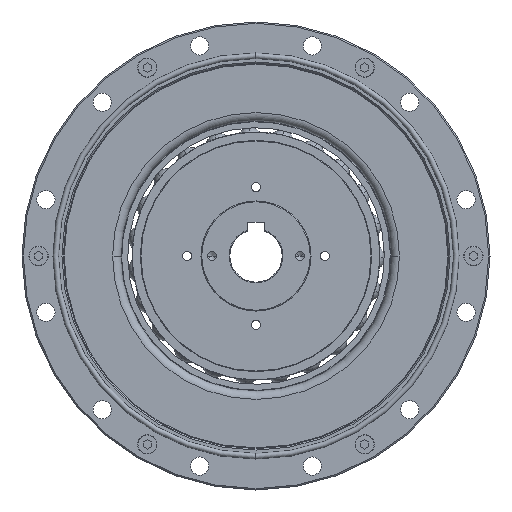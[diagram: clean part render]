
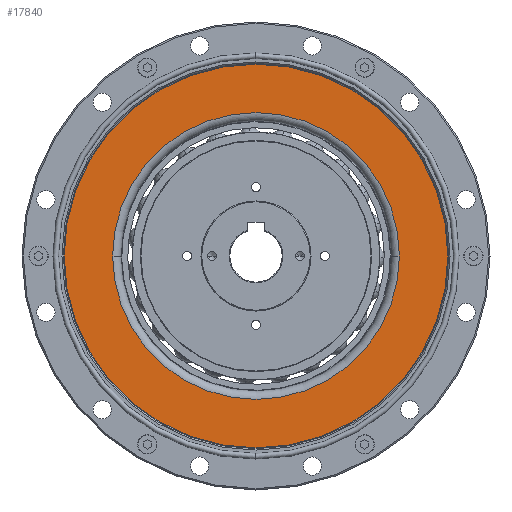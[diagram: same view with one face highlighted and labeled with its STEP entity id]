
A CAD part, left-side view. The second image highlights one B-rep face of the part: STEP entity #17840.
In plain terms, the highlighted planar face has unit normal (-1, 0, 0).
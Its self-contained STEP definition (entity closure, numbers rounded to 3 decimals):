
#370 = AXIS2_PLACEMENT_3D ( 'NONE', #1237, #13844, #3022 ) ;
#618 = CARTESIAN_POINT ( 'NONE',  ( 6.43, 52.085, 0. ) ) ;
#772 = CARTESIAN_POINT ( 'NONE',  ( 6.43, 0., 0. ) ) ;
#843 = CARTESIAN_POINT ( 'NONE',  ( 6.43, 0., 0. ) ) ;
#1237 = CARTESIAN_POINT ( 'NONE',  ( 6.43, 0., 0. ) ) ;
#1729 = EDGE_CURVE ( 'NONE', #16070, #21055, #2122, .T. ) ;
#2122 = CIRCLE ( 'NONE', #23203, 52.085 ) ;
#2385 = CARTESIAN_POINT ( 'NONE',  ( 6.43, 0., 0. ) ) ;
#2580 = DIRECTION ( 'NONE',  ( 0., -1., 0. ) ) ;
#2937 = DIRECTION ( 'NONE',  ( 0., -1., 0. ) ) ;
#2980 = ORIENTED_EDGE ( 'NONE', *, *, #21285, .T. ) ;
#3022 = DIRECTION ( 'NONE',  ( 0., 1., 0. ) ) ;
#4189 = DIRECTION ( 'NONE',  ( 0., 1., 0. ) ) ;
#4737 = EDGE_LOOP ( 'NONE', ( #10290, #2980 ) ) ;
#5698 = DIRECTION ( 'NONE',  ( 0., 1., 0. ) ) ;
#6409 = AXIS2_PLACEMENT_3D ( 'NONE', #2385, #14986, #4189 ) ;
#6784 = CARTESIAN_POINT ( 'NONE',  ( 6.43, -69.7, 0. ) ) ;
#8166 = CARTESIAN_POINT ( 'NONE',  ( 6.43, 69.7, 0. ) ) ;
#9267 = AXIS2_PLACEMENT_3D ( 'NONE', #772, #13398, #2580 ) ;
#9789 = CIRCLE ( 'NONE', #370, 69.7 ) ;
#10290 = ORIENTED_EDGE ( 'NONE', *, *, #22985, .T. ) ;
#11061 = PLANE ( 'NONE',  #18406 ) ;
#12840 = EDGE_LOOP ( 'NONE', ( #13739, #14792 ) ) ;
#12883 = CARTESIAN_POINT ( 'NONE',  ( 6.43, 0., 52.085 ) ) ;
#13184 = CIRCLE ( 'NONE', #9267, 52.085 ) ;
#13398 = DIRECTION ( 'NONE',  ( -1., 0., 0. ) ) ;
#13651 = CIRCLE ( 'NONE', #6409, 69.7 ) ;
#13739 = ORIENTED_EDGE ( 'NONE', *, *, #1729, .F. ) ;
#13844 = DIRECTION ( 'NONE',  ( -1., 0., 0. ) ) ;
#14792 = ORIENTED_EDGE ( 'NONE', *, *, #21118, .F. ) ;
#14986 = DIRECTION ( 'NONE',  ( -1., 0., 0. ) ) ;
#16070 = VERTEX_POINT ( 'NONE', #19263 ) ;
#16497 = DIRECTION ( 'NONE',  ( 1., 0., 0. ) ) ;
#16679 = FACE_BOUND ( 'NONE', #12840, .T. ) ;
#16913 = VERTEX_POINT ( 'NONE', #8166 ) ;
#17840 = ADVANCED_FACE ( 'NONE', ( #20880, #16679 ), #11061, .F. ) ;
#18406 = AXIS2_PLACEMENT_3D ( 'NONE', #12883, #16497, #5698 ) ;
#19263 = CARTESIAN_POINT ( 'NONE',  ( 6.43, -52.085, 0. ) ) ;
#20880 = FACE_OUTER_BOUND ( 'NONE', #4737, .T. ) ;
#21055 = VERTEX_POINT ( 'NONE', #618 ) ;
#21056 = DIRECTION ( 'NONE',  ( -1., 0., 0. ) ) ;
#21118 = EDGE_CURVE ( 'NONE', #21055, #16070, #13184, .T. ) ;
#21285 = EDGE_CURVE ( 'NONE', #22683, #16913, #9789, .T. ) ;
#22683 = VERTEX_POINT ( 'NONE', #6784 ) ;
#22985 = EDGE_CURVE ( 'NONE', #16913, #22683, #13651, .T. ) ;
#23203 = AXIS2_PLACEMENT_3D ( 'NONE', #843, #21056, #2937 ) ;
